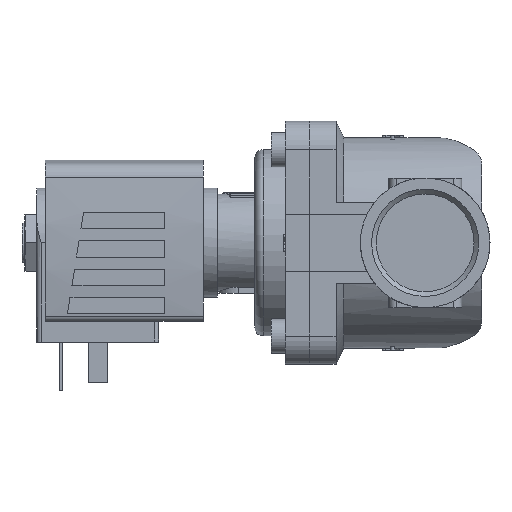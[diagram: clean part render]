
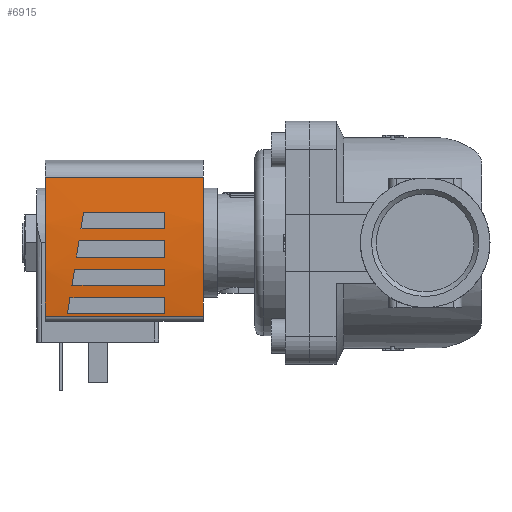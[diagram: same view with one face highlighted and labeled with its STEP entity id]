
A CAD part, left-side view. The second image highlights one B-rep face of the part: STEP entity #6915.
In plain terms, the highlighted cylindrical face has radius 130 mm (diameter 260 mm), a partial arc.
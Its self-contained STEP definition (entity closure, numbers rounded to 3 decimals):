
#94=ELLIPSE('',#7486,131.653,130.);
#95=ELLIPSE('',#7488,131.653,130.);
#96=ELLIPSE('',#7491,131.653,130.);
#97=ELLIPSE('',#7493,131.653,130.);
#246=CYLINDRICAL_SURFACE('',#7485,130.);
#637=LINE('',#10852,#1139);
#639=LINE('',#10872,#1141);
#640=LINE('',#10876,#1142);
#641=LINE('',#10877,#1143);
#642=LINE('',#10882,#1144);
#643=LINE('',#10887,#1145);
#644=LINE('',#10891,#1146);
#645=LINE('',#10895,#1147);
#646=LINE('',#10899,#1148);
#647=LINE('',#10903,#1149);
#1139=VECTOR('',#8907,1000.);
#1141=VECTOR('',#8929,1000.);
#1142=VECTOR('',#8932,1000.);
#1143=VECTOR('',#8933,1000.);
#1144=VECTOR('',#8936,1000.);
#1145=VECTOR('',#8941,1000.);
#1146=VECTOR('',#8944,1000.);
#1147=VECTOR('',#8947,1000.);
#1148=VECTOR('',#8950,1000.);
#1149=VECTOR('',#8953,1000.);
#2529=ORIENTED_EDGE('',*,*,#3569,.F.);
#2530=ORIENTED_EDGE('',*,*,#3570,.F.);
#2531=ORIENTED_EDGE('',*,*,#3571,.F.);
#2532=ORIENTED_EDGE('',*,*,#3572,.F.);
#2533=ORIENTED_EDGE('',*,*,#3573,.F.);
#2534=ORIENTED_EDGE('',*,*,#3574,.F.);
#2535=ORIENTED_EDGE('',*,*,#3575,.F.);
#2536=ORIENTED_EDGE('',*,*,#3576,.F.);
#2537=ORIENTED_EDGE('',*,*,#3577,.T.);
#2538=ORIENTED_EDGE('',*,*,#3578,.F.);
#2539=ORIENTED_EDGE('',*,*,#3563,.F.);
#2540=ORIENTED_EDGE('',*,*,#3560,.T.);
#2541=ORIENTED_EDGE('',*,*,#3579,.F.);
#2542=ORIENTED_EDGE('',*,*,#3580,.F.);
#2543=ORIENTED_EDGE('',*,*,#3581,.F.);
#2544=ORIENTED_EDGE('',*,*,#3582,.F.);
#2545=ORIENTED_EDGE('',*,*,#3583,.F.);
#2546=ORIENTED_EDGE('',*,*,#3584,.F.);
#2547=ORIENTED_EDGE('',*,*,#3585,.F.);
#2548=ORIENTED_EDGE('',*,*,#3586,.F.);
#3560=EDGE_CURVE('',#4183,#4182,#637,.T.);
#3563=EDGE_CURVE('',#4183,#4185,#4464,.T.);
#3569=EDGE_CURVE('',#4189,#4190,#94,.T.);
#3570=EDGE_CURVE('',#4191,#4189,#639,.F.);
#3571=EDGE_CURVE('',#4192,#4191,#4469,.T.);
#3572=EDGE_CURVE('',#4190,#4192,#640,.T.);
#3573=EDGE_CURVE('',#4193,#4194,#641,.T.);
#3574=EDGE_CURVE('',#4195,#4193,#95,.T.);
#3575=EDGE_CURVE('',#4196,#4195,#642,.F.);
#3576=EDGE_CURVE('',#4194,#4196,#4470,.T.);
#3577=EDGE_CURVE('',#4182,#4197,#4471,.T.);
#3578=EDGE_CURVE('',#4185,#4197,#643,.T.);
#3579=EDGE_CURVE('',#4198,#4199,#96,.T.);
#3580=EDGE_CURVE('',#4200,#4198,#644,.F.);
#3581=EDGE_CURVE('',#4201,#4200,#4472,.T.);
#3582=EDGE_CURVE('',#4199,#4201,#645,.T.);
#3583=EDGE_CURVE('',#4202,#4203,#97,.T.);
#3584=EDGE_CURVE('',#4204,#4202,#646,.F.);
#3585=EDGE_CURVE('',#4205,#4204,#4473,.T.);
#3586=EDGE_CURVE('',#4203,#4205,#647,.T.);
#4182=VERTEX_POINT('',#10851);
#4183=VERTEX_POINT('',#10853);
#4185=VERTEX_POINT('',#10859);
#4189=VERTEX_POINT('',#10870);
#4190=VERTEX_POINT('',#10871);
#4191=VERTEX_POINT('',#10873);
#4192=VERTEX_POINT('',#10875);
#4193=VERTEX_POINT('',#10878);
#4194=VERTEX_POINT('',#10879);
#4195=VERTEX_POINT('',#10881);
#4196=VERTEX_POINT('',#10883);
#4197=VERTEX_POINT('',#10886);
#4198=VERTEX_POINT('',#10889);
#4199=VERTEX_POINT('',#10890);
#4200=VERTEX_POINT('',#10892);
#4201=VERTEX_POINT('',#10894);
#4202=VERTEX_POINT('',#10897);
#4203=VERTEX_POINT('',#10898);
#4204=VERTEX_POINT('',#10900);
#4205=VERTEX_POINT('',#10902);
#4464=CIRCLE('',#7480,130.);
#4469=CIRCLE('',#7487,130.);
#4470=CIRCLE('',#7489,130.);
#4471=CIRCLE('',#7490,130.);
#4472=CIRCLE('',#7492,130.);
#4473=CIRCLE('',#7494,130.);
#4779=EDGE_LOOP('',(#2529,#2530,#2531,#2532));
#4780=EDGE_LOOP('',(#2533,#2534,#2535,#2536));
#4781=EDGE_LOOP('',(#2537,#2538,#2539,#2540));
#4782=EDGE_LOOP('',(#2541,#2542,#2543,#2544));
#4783=EDGE_LOOP('',(#2545,#2546,#2547,#2548));
#5163=FACE_BOUND('',#4779,.T.);
#5164=FACE_BOUND('',#4780,.T.);
#5165=FACE_BOUND('',#4781,.T.);
#5166=FACE_BOUND('',#4782,.T.);
#5167=FACE_BOUND('',#4783,.T.);
#6915=ADVANCED_FACE('',(#5163,#5164,#5165,#5166,#5167),#246,.T.);
#7480=AXIS2_PLACEMENT_3D('',#10858,#8914,#8915);
#7485=AXIS2_PLACEMENT_3D('',#10868,#8925,#8926);
#7486=AXIS2_PLACEMENT_3D('',#10869,#8927,#8928);
#7487=AXIS2_PLACEMENT_3D('',#10874,#8930,#8931);
#7488=AXIS2_PLACEMENT_3D('',#10880,#8934,#8935);
#7489=AXIS2_PLACEMENT_3D('',#10884,#8937,#8938);
#7490=AXIS2_PLACEMENT_3D('',#10885,#8939,#8940);
#7491=AXIS2_PLACEMENT_3D('',#10888,#8942,#8943);
#7492=AXIS2_PLACEMENT_3D('',#10893,#8945,#8946);
#7493=AXIS2_PLACEMENT_3D('',#10896,#8948,#8949);
#7494=AXIS2_PLACEMENT_3D('',#10901,#8951,#8952);
#8907=DIRECTION('',(0.,-1.,0.));
#8914=DIRECTION('',(0.,1.,0.));
#8915=DIRECTION('',(1.,0.,0.));
#8925=DIRECTION('',(0.,-1.,0.));
#8926=DIRECTION('',(0.,0.,-1.));
#8927=DIRECTION('',(-0.158,-0.987,0.));
#8928=DIRECTION('',(0.987,-0.158,0.));
#8929=DIRECTION('',(0.,-1.,0.));
#8930=DIRECTION('',(0.,1.,0.));
#8931=DIRECTION('',(0.,0.,1.));
#8932=DIRECTION('',(0.,-1.,0.));
#8933=DIRECTION('',(0.,-1.,0.));
#8934=DIRECTION('',(-0.158,-0.987,0.));
#8935=DIRECTION('',(0.987,-0.158,0.));
#8936=DIRECTION('',(0.,-1.,0.));
#8937=DIRECTION('',(0.,1.,0.));
#8938=DIRECTION('',(0.,0.,1.));
#8939=DIRECTION('',(0.,1.,0.));
#8940=DIRECTION('',(1.,0.,0.));
#8941=DIRECTION('',(0.,-1.,0.));
#8942=DIRECTION('',(-0.158,-0.987,0.));
#8943=DIRECTION('',(0.987,-0.158,0.));
#8944=DIRECTION('',(0.,-1.,0.));
#8945=DIRECTION('',(0.,1.,0.));
#8946=DIRECTION('',(0.,0.,1.));
#8947=DIRECTION('',(0.,-1.,0.));
#8948=DIRECTION('',(-0.158,-0.987,0.));
#8949=DIRECTION('',(0.987,-0.158,0.));
#8950=DIRECTION('',(0.,-1.,0.));
#8951=DIRECTION('',(0.,1.,0.));
#8952=DIRECTION('',(0.,0.,1.));
#8953=DIRECTION('',(0.,-1.,0.));
#10851=CARTESIAN_POINT('',(-18.071,-26.,14.738));
#10852=CARTESIAN_POINT('',(-18.071,13.,14.738));
#10853=CARTESIAN_POINT('',(-18.071,13.,14.738));
#10858=CARTESIAN_POINT('',(0.,13.,-114.));
#10859=CARTESIAN_POINT('',(16.195,13.,14.987));
#10868=CARTESIAN_POINT('',(0.,13.,-114.));
#10869=CARTESIAN_POINT('',(0.,4.7,-114.));
#10870=CARTESIAN_POINT('',(0.5,4.62,15.999));
#10871=CARTESIAN_POINT('',(-3.5,5.26,15.953));
#10872=CARTESIAN_POINT('',(0.5,13.,15.999));
#10873=CARTESIAN_POINT('',(0.5,-16.5,15.999));
#10874=CARTESIAN_POINT('',(0.,-16.5,-114.));
#10875=CARTESIAN_POINT('',(-3.5,-16.5,15.953));
#10876=CARTESIAN_POINT('',(-3.5,13.,15.953));
#10877=CARTESIAN_POINT('',(-17.5,13.,14.817));
#10878=CARTESIAN_POINT('',(-17.5,7.5,14.817));
#10879=CARTESIAN_POINT('',(-17.5,-16.5,14.817));
#10880=CARTESIAN_POINT('',(0.,4.7,-114.));
#10881=CARTESIAN_POINT('',(-13.5,6.86,15.297));
#10882=CARTESIAN_POINT('',(-13.5,13.,15.297));
#10883=CARTESIAN_POINT('',(-13.5,-16.5,15.297));
#10884=CARTESIAN_POINT('',(0.,-16.5,-114.));
#10885=CARTESIAN_POINT('',(0.,-26.,-114.));
#10886=CARTESIAN_POINT('',(16.195,-26.,14.987));
#10887=CARTESIAN_POINT('',(16.195,13.,14.987));
#10888=CARTESIAN_POINT('',(0.,4.7,-114.));
#10889=CARTESIAN_POINT('',(-6.5,5.74,15.837));
#10890=CARTESIAN_POINT('',(-10.5,6.38,15.575));
#10891=CARTESIAN_POINT('',(-6.5,13.,15.837));
#10892=CARTESIAN_POINT('',(-6.5,-16.5,15.837));
#10893=CARTESIAN_POINT('',(0.,-16.5,-114.));
#10894=CARTESIAN_POINT('',(-10.5,-16.5,15.575));
#10895=CARTESIAN_POINT('',(-10.5,13.,15.575));
#10896=CARTESIAN_POINT('',(0.,4.7,-114.));
#10897=CARTESIAN_POINT('',(7.5,3.5,15.783));
#10898=CARTESIAN_POINT('',(3.5,4.14,15.953));
#10899=CARTESIAN_POINT('',(7.5,13.,15.783));
#10900=CARTESIAN_POINT('',(7.5,-16.5,15.783));
#10901=CARTESIAN_POINT('',(0.,-16.5,-114.));
#10902=CARTESIAN_POINT('',(3.5,-16.5,15.953));
#10903=CARTESIAN_POINT('',(3.5,13.,15.953));
